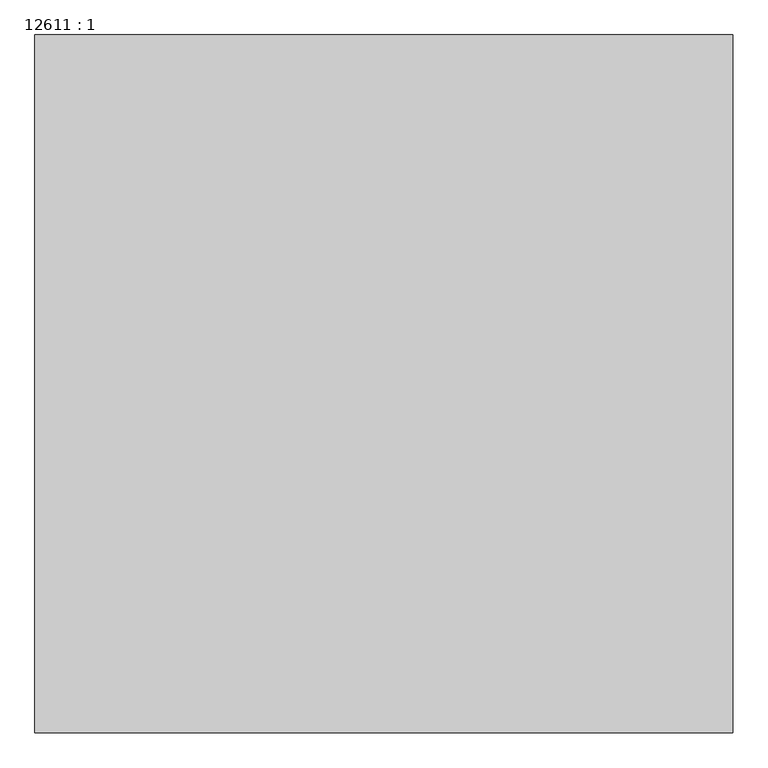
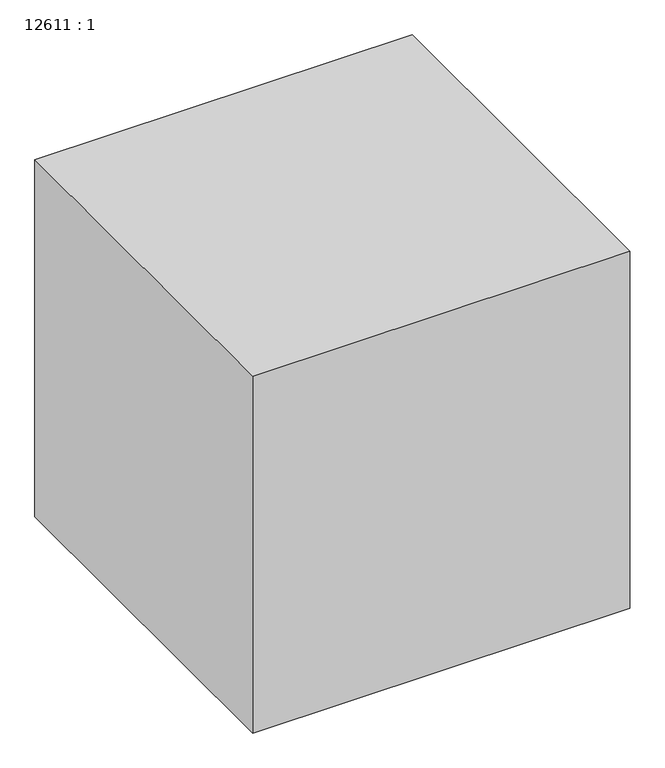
"""IFC4 building model written with IfcOpenShell, lengths in millimetres: proxy geometry, 12611 : 1."""

from ifc_helpers import new_model, si_unit, origin, origin_with_axes, place, context, project, spatial, polyline, outline, extrude, source, transform, mapped, element, save


def proxy_12611_1_bfa230e9(model_context):
    return source(origin(), model_context, "Body", "SweptSolid", [
        extrude(outline(polyline([(15692.0243292, -8664.7705528), (15692.0243292, -9664.7705528), (14692.0243292, -9664.7705528), (14692.0243292, -8664.7705528), (15692.0243292, -8664.7705528)])), origin_with_axes(), (0.0, 0.0, 1.0), 1000.0),
    ])


if __name__ == "__main__":
    model = new_model("IFC4")
    model_context = context("Model", 3, world=origin())
    ifc_project = project(units=[si_unit("LENGTHUNIT", "METRE", prefix="MILLI")], contexts=[model_context])
    site = spatial("IfcSite", under=ifc_project)
    building = spatial("IfcBuilding", under=site)
    placement = place(None, origin())
    proxy_12611_1_shape = proxy_12611_1_bfa230e9(model_context)
    element("IfcBuildingElementProxy", 1, Name="12611 : 1", ObjectType="12611 : 1", at=placement, inside=building, context=model_context, shape_type="MappedRepresentation", body=[
        mapped(proxy_12611_1_shape, transform((0.0, 0.0, 0.0), x_axis=(1.0, 0.0, 0.0), y_axis=(0.0, 1.0, 0.0), z_axis=(0.0, 0.0, 1.0))),
    ])
    save(model, "model.ifc")
